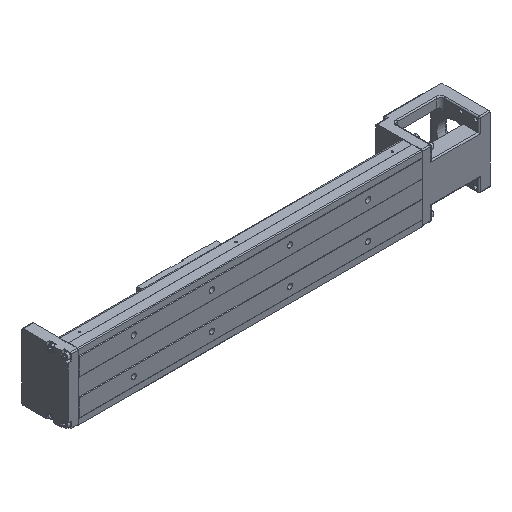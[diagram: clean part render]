
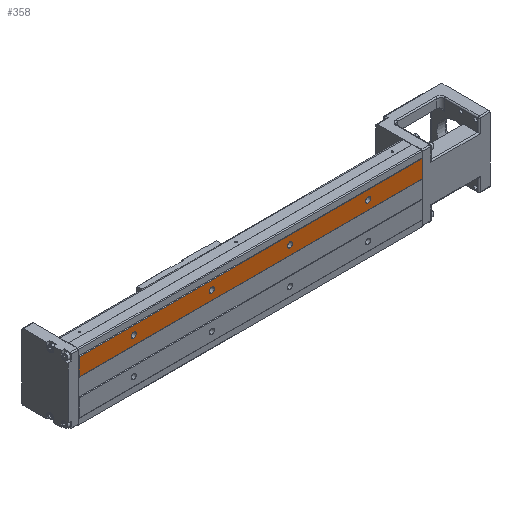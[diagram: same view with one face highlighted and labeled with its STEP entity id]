
A CAD part, isometric view. The second image highlights one B-rep face of the part: STEP entity #358.
In plain terms, the highlighted planar face has unit normal (0, -1, 0).
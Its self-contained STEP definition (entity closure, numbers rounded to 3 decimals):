
#38 = EDGE_CURVE ( 'NONE', #70, #11161, #6537, .T. ) ;
#70 = VERTEX_POINT ( 'NONE', #12270 ) ;
#218 = VECTOR ( 'NONE', #7312, 1000. ) ;
#358 = ADVANCED_FACE ( 'NONE', ( #5634, #15880, #12081, #6522, #8294 ), #5889, .T. ) ;
#681 = AXIS2_PLACEMENT_3D ( 'NONE', #2229, #16436, #2054 ) ;
#852 = ORIENTED_EDGE ( 'NONE', *, *, #4849, .T. ) ;
#930 = DIRECTION ( 'NONE',  ( 0., 0., -1. ) ) ;
#1475 = CARTESIAN_POINT ( 'NONE',  ( -520., -32., 11.5 ) ) ;
#1585 = EDGE_CURVE ( 'NONE', #8256, #14973, #8460, .T. ) ;
#1739 = AXIS2_PLACEMENT_3D ( 'NONE', #8020, #9471, #930 ) ;
#1760 = EDGE_LOOP ( 'NONE', ( #12210, #15027 ) ) ;
#1812 = CARTESIAN_POINT ( 'NONE',  ( 220., -32., 34. ) ) ;
#2054 = DIRECTION ( 'NONE',  ( 0., 0., -1. ) ) ;
#2229 = CARTESIAN_POINT ( 'NONE',  ( 50., -32., 23. ) ) ;
#2324 = ORIENTED_EDGE ( 'NONE', *, *, #13309, .T. ) ;
#2334 = VERTEX_POINT ( 'NONE', #3440 ) ;
#2366 = CARTESIAN_POINT ( 'NONE',  ( 150., -32., 23. ) ) ;
#2546 = CARTESIAN_POINT ( 'NONE',  ( -150., -32., 26.3 ) ) ;
#2581 = EDGE_CURVE ( 'NONE', #8853, #2837, #17156, .T. ) ;
#2623 = DIRECTION ( 'NONE',  ( 0., 0., 1. ) ) ;
#2794 = ORIENTED_EDGE ( 'NONE', *, *, #15747, .T. ) ;
#2837 = VERTEX_POINT ( 'NONE', #1812 ) ;
#3159 = VECTOR ( 'NONE', #11580, 1000. ) ;
#3390 = DIRECTION ( 'NONE',  ( 0., 1., 0. ) ) ;
#3440 = CARTESIAN_POINT ( 'NONE',  ( -220., -32., 34. ) ) ;
#3637 = DIRECTION ( 'NONE',  ( 0., 1., 0. ) ) ;
#3724 = CARTESIAN_POINT ( 'NONE',  ( 150., -32., 26.3 ) ) ;
#3785 = DIRECTION ( 'NONE',  ( 0., 0., -1. ) ) ;
#4248 = AXIS2_PLACEMENT_3D ( 'NONE', #2366, #18297, #3785 ) ;
#4545 = CARTESIAN_POINT ( 'NONE',  ( -220., -32., 5.95 ) ) ;
#4849 = EDGE_CURVE ( 'NONE', #16366, #8853, #6230, .T. ) ;
#4906 = CARTESIAN_POINT ( 'NONE',  ( -520., -32., 34. ) ) ;
#5634 = FACE_OUTER_BOUND ( 'NONE', #6921, .T. ) ;
#5756 = AXIS2_PLACEMENT_3D ( 'NONE', #15207, #3637, #12215 ) ;
#5889 = PLANE ( 'NONE',  #6847 ) ;
#6036 = VERTEX_POINT ( 'NONE', #10309 ) ;
#6079 = ORIENTED_EDGE ( 'NONE', *, *, #13184, .T. ) ;
#6230 = LINE ( 'NONE', #1475, #218 ) ;
#6522 = FACE_BOUND ( 'NONE', #17415, .T. ) ;
#6537 = CIRCLE ( 'NONE', #9838, 3.3 ) ;
#6716 = ORIENTED_EDGE ( 'NONE', *, *, #9266, .F. ) ;
#6847 = AXIS2_PLACEMENT_3D ( 'NONE', #14348, #11428, #11555 ) ;
#6921 = EDGE_LOOP ( 'NONE', ( #2794, #852, #14552, #6716 ) ) ;
#6934 = LINE ( 'NONE', #4545, #3159 ) ;
#7105 = AXIS2_PLACEMENT_3D ( 'NONE', #16725, #16604, #18155 ) ;
#7127 = DIRECTION ( 'NONE',  ( 0., 0., -1. ) ) ;
#7312 = DIRECTION ( 'NONE',  ( 1., 0., 0. ) ) ;
#7501 = CIRCLE ( 'NONE', #681, 3.3 ) ;
#7711 = CIRCLE ( 'NONE', #10479, 3.3 ) ;
#7857 = LINE ( 'NONE', #4906, #11866 ) ;
#7926 = CIRCLE ( 'NONE', #12827, 3.3 ) ;
#7936 = ORIENTED_EDGE ( 'NONE', *, *, #17828, .T. ) ;
#8020 = CARTESIAN_POINT ( 'NONE',  ( 150., -32., 23. ) ) ;
#8256 = VERTEX_POINT ( 'NONE', #3724 ) ;
#8294 = FACE_BOUND ( 'NONE', #1760, .T. ) ;
#8460 = CIRCLE ( 'NONE', #1739, 3.3 ) ;
#8517 = EDGE_LOOP ( 'NONE', ( #14439, #7936 ) ) ;
#8692 = CARTESIAN_POINT ( 'NONE',  ( -150., -32., 23. ) ) ;
#8853 = VERTEX_POINT ( 'NONE', #17855 ) ;
#9133 = CARTESIAN_POINT ( 'NONE',  ( -150., -32., 23. ) ) ;
#9266 = EDGE_CURVE ( 'NONE', #2334, #2837, #7857, .T. ) ;
#9305 = CARTESIAN_POINT ( 'NONE',  ( 220., -32., 11.5 ) ) ;
#9307 = EDGE_CURVE ( 'NONE', #6036, #12529, #12087, .T. ) ;
#9471 = DIRECTION ( 'NONE',  ( 0., 1., 0. ) ) ;
#9741 = CARTESIAN_POINT ( 'NONE',  ( 150., -32., 19.7 ) ) ;
#9838 = AXIS2_PLACEMENT_3D ( 'NONE', #9133, #3390, #13348 ) ;
#9888 = DIRECTION ( 'NONE',  ( 0., 1., 0. ) ) ;
#10286 = CARTESIAN_POINT ( 'NONE',  ( -50., -32., 19.7 ) ) ;
#10309 = CARTESIAN_POINT ( 'NONE',  ( -50., -32., 26.3 ) ) ;
#10479 = AXIS2_PLACEMENT_3D ( 'NONE', #10819, #12238, #15106 ) ;
#10819 = CARTESIAN_POINT ( 'NONE',  ( 50., -32., 23. ) ) ;
#11047 = CIRCLE ( 'NONE', #4248, 3.3 ) ;
#11161 = VERTEX_POINT ( 'NONE', #2546 ) ;
#11428 = DIRECTION ( 'NONE',  ( 0., -1., 0. ) ) ;
#11555 = DIRECTION ( 'NONE',  ( -1., 0., 0. ) ) ;
#11580 = DIRECTION ( 'NONE',  ( 0., 0., -1. ) ) ;
#11866 = VECTOR ( 'NONE', #14708, 1000. ) ;
#12081 = FACE_BOUND ( 'NONE', #16131, .T. ) ;
#12087 = CIRCLE ( 'NONE', #5756, 3.3 ) ;
#12210 = ORIENTED_EDGE ( 'NONE', *, *, #12737, .T. ) ;
#12215 = DIRECTION ( 'NONE',  ( 0., 0., -1. ) ) ;
#12238 = DIRECTION ( 'NONE',  ( 0., 1., 0. ) ) ;
#12270 = CARTESIAN_POINT ( 'NONE',  ( -150., -32., 19.7 ) ) ;
#12474 = CARTESIAN_POINT ( 'NONE',  ( 50., -32., 19.7 ) ) ;
#12529 = VERTEX_POINT ( 'NONE', #10286 ) ;
#12737 = EDGE_CURVE ( 'NONE', #14973, #8256, #11047, .T. ) ;
#12827 = AXIS2_PLACEMENT_3D ( 'NONE', #8692, #9888, #7127 ) ;
#12997 = VERTEX_POINT ( 'NONE', #13122 ) ;
#13122 = CARTESIAN_POINT ( 'NONE',  ( 50., -32., 26.3 ) ) ;
#13184 = EDGE_CURVE ( 'NONE', #12529, #6036, #13953, .T. ) ;
#13291 = ORIENTED_EDGE ( 'NONE', *, *, #9307, .T. ) ;
#13309 = EDGE_CURVE ( 'NONE', #12997, #16064, #7711, .T. ) ;
#13348 = DIRECTION ( 'NONE',  ( 0., 0., -1. ) ) ;
#13365 = VECTOR ( 'NONE', #2623, 1000. ) ;
#13953 = CIRCLE ( 'NONE', #7105, 3.3 ) ;
#14348 = CARTESIAN_POINT ( 'NONE',  ( 220., -32., -33.6 ) ) ;
#14439 = ORIENTED_EDGE ( 'NONE', *, *, #38, .T. ) ;
#14552 = ORIENTED_EDGE ( 'NONE', *, *, #2581, .T. ) ;
#14708 = DIRECTION ( 'NONE',  ( 1., 0., 0. ) ) ;
#14973 = VERTEX_POINT ( 'NONE', #9741 ) ;
#15027 = ORIENTED_EDGE ( 'NONE', *, *, #1585, .T. ) ;
#15106 = DIRECTION ( 'NONE',  ( 0., 0., -1. ) ) ;
#15207 = CARTESIAN_POINT ( 'NONE',  ( -50., -32., 23. ) ) ;
#15747 = EDGE_CURVE ( 'NONE', #2334, #16366, #6934, .T. ) ;
#15880 = FACE_BOUND ( 'NONE', #8517, .T. ) ;
#16064 = VERTEX_POINT ( 'NONE', #12474 ) ;
#16131 = EDGE_LOOP ( 'NONE', ( #6079, #13291 ) ) ;
#16366 = VERTEX_POINT ( 'NONE', #17297 ) ;
#16436 = DIRECTION ( 'NONE',  ( 0., 1., 0. ) ) ;
#16604 = DIRECTION ( 'NONE',  ( 0., 1., 0. ) ) ;
#16725 = CARTESIAN_POINT ( 'NONE',  ( -50., -32., 23. ) ) ;
#17156 = LINE ( 'NONE', #9305, #13365 ) ;
#17297 = CARTESIAN_POINT ( 'NONE',  ( -220., -32., 11.5 ) ) ;
#17415 = EDGE_LOOP ( 'NONE', ( #17699, #2324 ) ) ;
#17535 = EDGE_CURVE ( 'NONE', #16064, #12997, #7501, .T. ) ;
#17699 = ORIENTED_EDGE ( 'NONE', *, *, #17535, .T. ) ;
#17828 = EDGE_CURVE ( 'NONE', #11161, #70, #7926, .T. ) ;
#17855 = CARTESIAN_POINT ( 'NONE',  ( 220., -32., 11.5 ) ) ;
#18155 = DIRECTION ( 'NONE',  ( 0., 0., -1. ) ) ;
#18297 = DIRECTION ( 'NONE',  ( 0., 1., 0. ) ) ;
